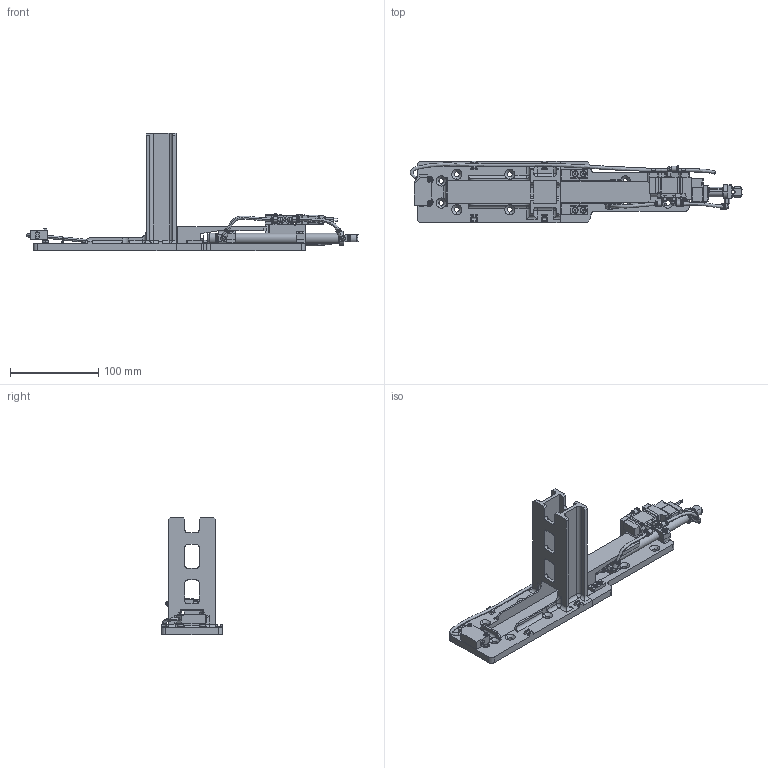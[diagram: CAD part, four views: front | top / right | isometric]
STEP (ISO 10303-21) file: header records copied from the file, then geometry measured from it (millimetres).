
FILE_DESCRIPTION (( 'STEP AP214' ), '1' );
FILE_NAME ('astorino_cubeFeeder.STEP', '2024-05-02T08:28:23', ( '' ), ( '' ), 'SwSTEP 2.0', 'SolidWorks 2021', '' );
FILE_SCHEMA (( 'AUTOMOTIVE_DESIGN' ));
Length unit declared in the file: millimetre
Products named in the file (1): astorino_cubeFeeder
Bounding box: 375.97 x 69.52 x 133 mm (x, y, z)
Surface area: 119339.5 mm2 (no closed solid volume)
Topology: 0 solids, 57 shells, 1027 faces, 3008 edges, 1986 vertices
Faces by surface type: plane 424, cylinder 392, cone 137, torus 41, sphere 17, bspline 16
Entity records: 47740 total; most frequent: CARTESIAN_POINT 9344, DIRECTION 5801, ORIENTED_EDGE 5213, EDGE_CURVE 2975, AXIS2_PLACEMENT_3D 2043, VERTEX_POINT 1986, LINE 1715, VECTOR 1715
